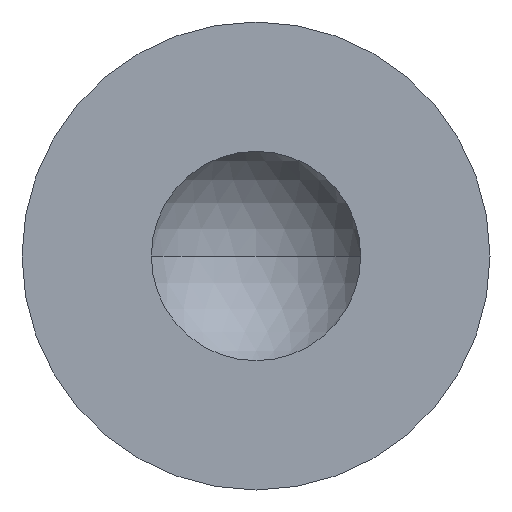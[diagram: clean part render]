
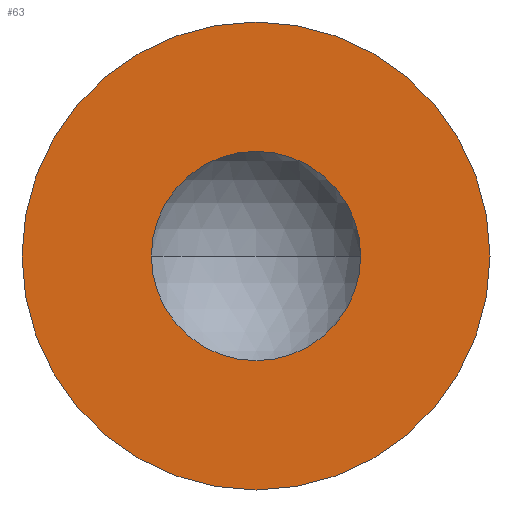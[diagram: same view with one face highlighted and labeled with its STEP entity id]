
A CAD part, front view. The second image highlights one B-rep face of the part: STEP entity #63.
In plain terms, the highlighted planar face has unit normal (0, -1, 0).
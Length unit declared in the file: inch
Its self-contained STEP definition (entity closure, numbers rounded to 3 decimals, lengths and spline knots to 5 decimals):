
#4 = ORIENTED_EDGE ( 'NONE', *, *, #27, .T. ) ;
#27 = EDGE_CURVE ( 'NONE', #103, #300, #316, .T. ) ;
#34 = ORIENTED_EDGE ( 'NONE', *, *, #76, .F. ) ;
#37 = EDGE_LOOP ( 'NONE', ( #4, #48 ) ) ;
#39 = EDGE_CURVE ( 'NONE', #88, #42, #116, .T. ) ;
#42 = VERTEX_POINT ( 'NONE', #144 ) ;
#48 = ORIENTED_EDGE ( 'NONE', *, *, #109, .T. ) ;
#63 = ADVANCED_FACE ( 'NONE', ( #226, #227 ), #228, .T. ) ;
#76 = EDGE_CURVE ( 'NONE', #42, #88, #263, .T. ) ;
#88 = VERTEX_POINT ( 'NONE', #335 ) ;
#92 = ORIENTED_EDGE ( 'NONE', *, *, #39, .F. ) ;
#103 = VERTEX_POINT ( 'NONE', #115 ) ;
#109 = EDGE_CURVE ( 'NONE', #300, #103, #135, .T. ) ;
#115 = CARTESIAN_POINT ( 'NONE',  ( 0., -0.248, -0.95 ) ) ;
#116 = CIRCLE ( 'NONE', #117, 0.42507 ) ;
#117 = AXIS2_PLACEMENT_3D ( 'NONE', #118, #119, #120 ) ;
#118 = CARTESIAN_POINT ( 'NONE',  ( 0., -0.248, 0. ) ) ;
#119 = DIRECTION ( 'NONE',  ( 0., -1., 0. ) ) ;
#120 = DIRECTION ( 'NONE',  ( 0., 0., -1. ) ) ;
#135 = CIRCLE ( 'NONE', #136, 0.95 ) ;
#136 = AXIS2_PLACEMENT_3D ( 'NONE', #137, #138, #139 ) ;
#137 = CARTESIAN_POINT ( 'NONE',  ( 0., -0.248, 0. ) ) ;
#138 = DIRECTION ( 'NONE',  ( 0., -1., 0. ) ) ;
#139 = DIRECTION ( 'NONE',  ( 0., 0., -1. ) ) ;
#144 = CARTESIAN_POINT ( 'NONE',  ( -0.42507, -0.248, 0. ) ) ;
#226 = FACE_OUTER_BOUND ( 'NONE', #37, .T. ) ;
#227 = FACE_BOUND ( 'NONE', #465, .T. ) ;
#228 = PLANE ( 'NONE',  #229 ) ;
#229 = AXIS2_PLACEMENT_3D ( 'NONE', #230, #231, #232 ) ;
#230 = CARTESIAN_POINT ( 'NONE',  ( 0.95, -0.248, 0. ) ) ;
#231 = DIRECTION ( 'NONE',  ( 0., -1., 0. ) ) ;
#232 = DIRECTION ( 'NONE',  ( 0., 0., -1. ) ) ;
#252 = CARTESIAN_POINT ( 'NONE',  ( 0., -0.248, 0.95 ) ) ;
#263 = CIRCLE ( 'NONE', #264, 0.42507 ) ;
#264 = AXIS2_PLACEMENT_3D ( 'NONE', #265, #266, #267 ) ;
#265 = CARTESIAN_POINT ( 'NONE',  ( 0., -0.248, 0. ) ) ;
#266 = DIRECTION ( 'NONE',  ( 0., -1., 0. ) ) ;
#267 = DIRECTION ( 'NONE',  ( 0., 0., -1. ) ) ;
#300 = VERTEX_POINT ( 'NONE', #252 ) ;
#316 = CIRCLE ( 'NONE', #317, 0.95 ) ;
#317 = AXIS2_PLACEMENT_3D ( 'NONE', #319, #320, #321 ) ;
#319 = CARTESIAN_POINT ( 'NONE',  ( 0., -0.248, 0. ) ) ;
#320 = DIRECTION ( 'NONE',  ( 0., -1., 0. ) ) ;
#321 = DIRECTION ( 'NONE',  ( 0., 0., -1. ) ) ;
#335 = CARTESIAN_POINT ( 'NONE',  ( 0.42507, -0.248, 0. ) ) ;
#465 = EDGE_LOOP ( 'NONE', ( #92, #34 ) ) ;
